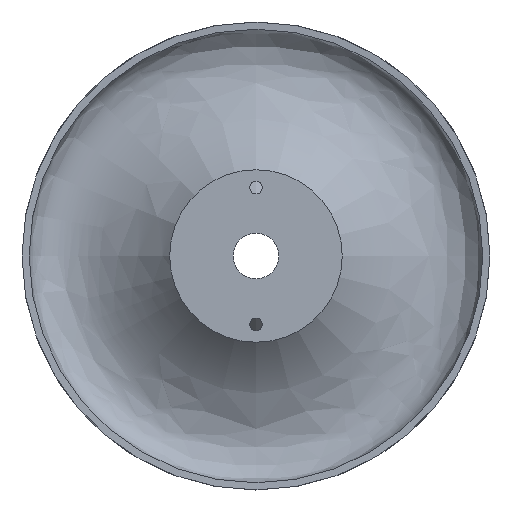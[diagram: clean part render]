
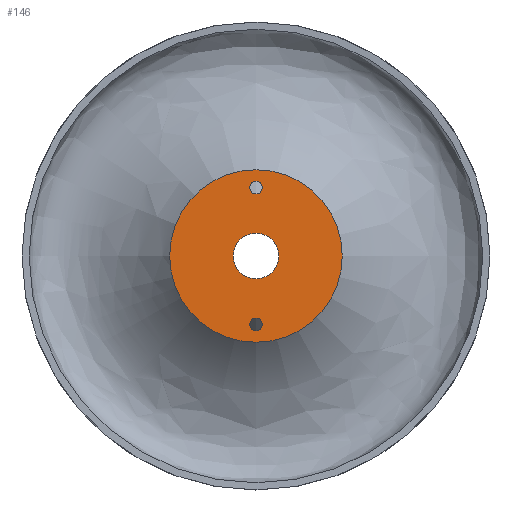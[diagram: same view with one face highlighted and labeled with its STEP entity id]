
A CAD part, left-side view. The second image highlights one B-rep face of the part: STEP entity #146.
In plain terms, the highlighted planar face has unit normal (-1, 0, 0).
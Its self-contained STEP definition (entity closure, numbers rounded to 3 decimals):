
#23=FACE_BOUND('',#47,.T.);
#24=FACE_BOUND('',#48,.T.);
#25=FACE_BOUND('',#49,.T.);
#27=PLANE('',#178);
#35=FACE_OUTER_BOUND('',#46,.T.);
#46=EDGE_LOOP('',(#132));
#47=EDGE_LOOP('',(#133));
#48=EDGE_LOOP('',(#134));
#49=EDGE_LOOP('',(#135));
#58=CIRCLE('',#162,3.5);
#60=CIRCLE('',#165,3.5);
#63=CIRCLE('',#169,48.);
#69=CIRCLE('',#177,12.7);
#70=VERTEX_POINT('',#223);
#72=VERTEX_POINT('',#229);
#75=VERTEX_POINT('',#237);
#81=VERTEX_POINT('',#5953);
#82=EDGE_CURVE('',#70,#70,#58,.T.);
#85=EDGE_CURVE('',#72,#72,#60,.T.);
#90=EDGE_CURVE('',#75,#75,#63,.T.);
#99=EDGE_CURVE('',#81,#81,#69,.T.);
#132=ORIENTED_EDGE('',*,*,#90,.F.);
#133=ORIENTED_EDGE('',*,*,#82,.T.);
#134=ORIENTED_EDGE('',*,*,#85,.T.);
#135=ORIENTED_EDGE('',*,*,#99,.T.);
#146=ADVANCED_FACE('',(#35,#23,#24,#25),#27,.T.);
#162=AXIS2_PLACEMENT_3D('',#224,#183,#184);
#165=AXIS2_PLACEMENT_3D('',#230,#190,#191);
#169=AXIS2_PLACEMENT_3D('',#239,#200,#201);
#177=AXIS2_PLACEMENT_3D('',#6254,#217,#218);
#178=AXIS2_PLACEMENT_3D('',#6255,#219,#220);
#183=DIRECTION('center_axis',(1.,0.,0.));
#184=DIRECTION('ref_axis',(0.,-1.,0.));
#190=DIRECTION('center_axis',(1.,0.,0.));
#191=DIRECTION('ref_axis',(0.,-1.,0.));
#200=DIRECTION('center_axis',(1.,0.,0.));
#201=DIRECTION('ref_axis',(0.,0.,-1.));
#217=DIRECTION('center_axis',(1.,0.,0.));
#218=DIRECTION('ref_axis',(0.,0.,-1.));
#219=DIRECTION('center_axis',(-1.,0.,0.));
#220=DIRECTION('ref_axis',(0.,0.,1.));
#223=CARTESIAN_POINT('',(0.,3.5,-38.));
#224=CARTESIAN_POINT('Origin',(0.,0.,-38.));
#229=CARTESIAN_POINT('',(0.,3.5,38.));
#230=CARTESIAN_POINT('Origin',(0.,0.,38.));
#237=CARTESIAN_POINT('',(0.,-48.,0.));
#239=CARTESIAN_POINT('Origin',(0.,0.,0.));
#5953=CARTESIAN_POINT('',(0.,12.7,0.));
#6254=CARTESIAN_POINT('Origin',(0.,0.,0.));
#6255=CARTESIAN_POINT('Origin',(0.,48.,0.));
